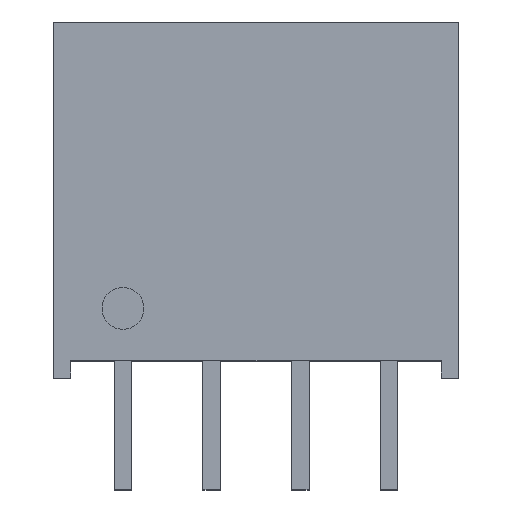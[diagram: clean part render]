
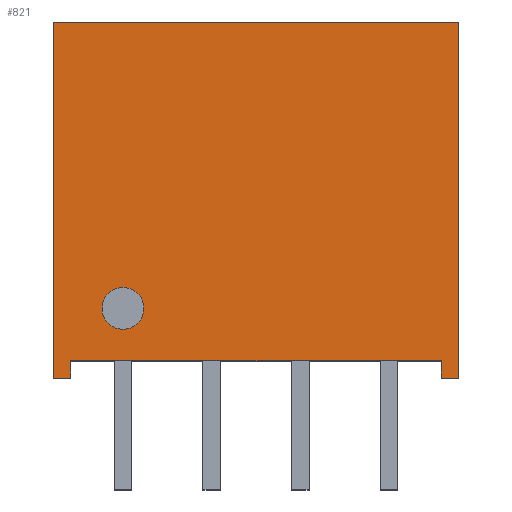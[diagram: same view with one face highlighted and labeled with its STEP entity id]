
A CAD part, top view. The second image highlights one B-rep face of the part: STEP entity #821.
In plain terms, the highlighted planar face has unit normal (0, 0, 1).
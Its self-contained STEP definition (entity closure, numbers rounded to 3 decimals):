
#5 = AXIS2_PLACEMENT_3D ( 'NONE', #296, #904, #755 ) ;
#10 = LINE ( 'NONE', #472, #853 ) ;
#15 = CARTESIAN_POINT ( 'NONE',  ( 5.3, -0.5, 3. ) ) ;
#64 = CARTESIAN_POINT ( 'NONE',  ( -5.3, 0., 3. ) ) ;
#90 = LINE ( 'NONE', #600, #711 ) ;
#93 = ORIENTED_EDGE ( 'NONE', *, *, #437, .T. ) ;
#120 = ORIENTED_EDGE ( 'NONE', *, *, #269, .T. ) ;
#139 = VERTEX_POINT ( 'NONE', #510 ) ;
#143 = CARTESIAN_POINT ( 'NONE',  ( -5.3, 0., 3. ) ) ;
#147 = DIRECTION ( 'NONE',  ( 1., 0., 0. ) ) ;
#161 = LINE ( 'NONE', #758, #716 ) ;
#162 = DIRECTION ( 'NONE',  ( 0., 1., 0. ) ) ;
#175 = EDGE_CURVE ( 'NONE', #190, #455, #271, .T. ) ;
#185 = ORIENTED_EDGE ( 'NONE', *, *, #175, .T. ) ;
#188 = VECTOR ( 'NONE', #575, 1000. ) ;
#190 = VERTEX_POINT ( 'NONE', #143 ) ;
#212 = LINE ( 'NONE', #221, #425 ) ;
#221 = CARTESIAN_POINT ( 'NONE',  ( -5.3, -0.5, 3. ) ) ;
#228 = EDGE_LOOP ( 'NONE', ( #634 ) ) ;
#244 = CARTESIAN_POINT ( 'NONE',  ( 5.8, -0.5, 3. ) ) ;
#248 = CARTESIAN_POINT ( 'NONE',  ( -5.3, -0.5, 3. ) ) ;
#262 = LINE ( 'NONE', #563, #687 ) ;
#269 = EDGE_CURVE ( 'NONE', #511, #190, #523, .T. ) ;
#271 = LINE ( 'NONE', #64, #188 ) ;
#278 = CARTESIAN_POINT ( 'NONE',  ( -5.3, 0., 3. ) ) ;
#296 = CARTESIAN_POINT ( 'NONE',  ( -3.81, 1.5, 3. ) ) ;
#298 = PLANE ( 'NONE',  #777 ) ;
#301 = VECTOR ( 'NONE', #162, 1000. ) ;
#313 = LINE ( 'NONE', #244, #301 ) ;
#326 = EDGE_CURVE ( 'NONE', #139, #511, #212, .T. ) ;
#346 = VECTOR ( 'NONE', #673, 1000. ) ;
#350 = EDGE_CURVE ( 'NONE', #937, #937, #460, .T. ) ;
#387 = DIRECTION ( 'NONE',  ( 1., 0., 0. ) ) ;
#416 = EDGE_LOOP ( 'NONE', ( #753, #703, #93, #833, #717, #829, #120, #185 ) ) ;
#425 = VECTOR ( 'NONE', #450, 1000. ) ;
#427 = CARTESIAN_POINT ( 'NONE',  ( -5.8, 9.7, 3. ) ) ;
#437 = EDGE_CURVE ( 'NONE', #597, #551, #313, .T. ) ;
#450 = DIRECTION ( 'NONE',  ( 1., 0., 0. ) ) ;
#453 = DIRECTION ( 'NONE',  ( 0., 0., 1. ) ) ;
#455 = VERTEX_POINT ( 'NONE', #542 ) ;
#460 = CIRCLE ( 'NONE', #5, 0.6 ) ;
#465 = EDGE_CURVE ( 'NONE', #551, #770, #10, .T. ) ;
#472 = CARTESIAN_POINT ( 'NONE',  ( 5.8, 9.7, 3. ) ) ;
#510 = CARTESIAN_POINT ( 'NONE',  ( -5.8, -0.5, 3. ) ) ;
#511 = VERTEX_POINT ( 'NONE', #248 ) ;
#523 = LINE ( 'NONE', #278, #346 ) ;
#542 = CARTESIAN_POINT ( 'NONE',  ( 5.3, 0., 3. ) ) ;
#551 = VERTEX_POINT ( 'NONE', #629 ) ;
#563 = CARTESIAN_POINT ( 'NONE',  ( 5.3, 0., 3. ) ) ;
#575 = DIRECTION ( 'NONE',  ( 1., 0., 0. ) ) ;
#597 = VERTEX_POINT ( 'NONE', #943 ) ;
#600 = CARTESIAN_POINT ( 'NONE',  ( -5.8, -0.5, 3. ) ) ;
#629 = CARTESIAN_POINT ( 'NONE',  ( 5.8, 9.7, 3. ) ) ;
#634 = ORIENTED_EDGE ( 'NONE', *, *, #350, .F. ) ;
#644 = EDGE_CURVE ( 'NONE', #455, #901, #262, .T. ) ;
#673 = DIRECTION ( 'NONE',  ( 0., 1., 0. ) ) ;
#687 = VECTOR ( 'NONE', #893, 1000. ) ;
#691 = DIRECTION ( 'NONE',  ( 0., -1., 0. ) ) ;
#703 = ORIENTED_EDGE ( 'NONE', *, *, #857, .T. ) ;
#711 = VECTOR ( 'NONE', #691, 1000. ) ;
#716 = VECTOR ( 'NONE', #387, 1000. ) ;
#717 = ORIENTED_EDGE ( 'NONE', *, *, #897, .T. ) ;
#753 = ORIENTED_EDGE ( 'NONE', *, *, #644, .T. ) ;
#755 = DIRECTION ( 'NONE',  ( 1., 0., 0. ) ) ;
#758 = CARTESIAN_POINT ( 'NONE',  ( 5.3, -0.5, 3. ) ) ;
#770 = VERTEX_POINT ( 'NONE', #427 ) ;
#777 = AXIS2_PLACEMENT_3D ( 'NONE', #922, #453, #147 ) ;
#821 = ADVANCED_FACE ( 'NONE', ( #844, #839 ), #298, .T. ) ;
#829 = ORIENTED_EDGE ( 'NONE', *, *, #326, .T. ) ;
#833 = ORIENTED_EDGE ( 'NONE', *, *, #465, .T. ) ;
#839 = FACE_OUTER_BOUND ( 'NONE', #416, .T. ) ;
#844 = FACE_BOUND ( 'NONE', #228, .T. ) ;
#853 = VECTOR ( 'NONE', #914, 1000. ) ;
#857 = EDGE_CURVE ( 'NONE', #901, #597, #161, .T. ) ;
#893 = DIRECTION ( 'NONE',  ( 0., -1., 0. ) ) ;
#897 = EDGE_CURVE ( 'NONE', #770, #139, #90, .T. ) ;
#901 = VERTEX_POINT ( 'NONE', #15 ) ;
#904 = DIRECTION ( 'NONE',  ( 0., 0., 1. ) ) ;
#914 = DIRECTION ( 'NONE',  ( -1., 0., 0. ) ) ;
#922 = CARTESIAN_POINT ( 'NONE',  ( 5.3, -0.5, 3. ) ) ;
#930 = CARTESIAN_POINT ( 'NONE',  ( -3.21, 1.5, 3. ) ) ;
#937 = VERTEX_POINT ( 'NONE', #930 ) ;
#943 = CARTESIAN_POINT ( 'NONE',  ( 5.8, -0.5, 3. ) ) ;
